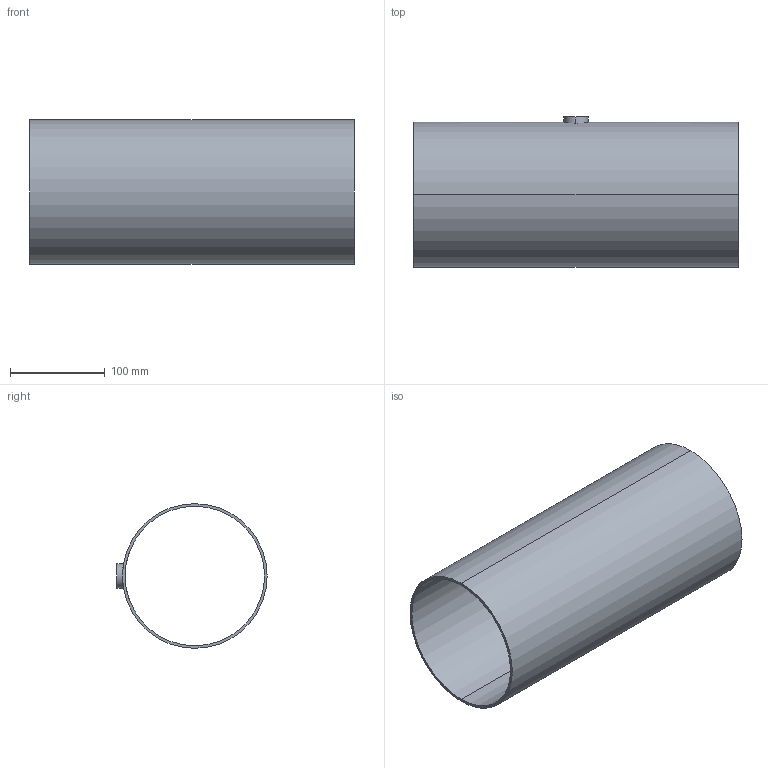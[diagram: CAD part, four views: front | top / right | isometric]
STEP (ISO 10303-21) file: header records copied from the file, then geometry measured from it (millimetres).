
FILE_DESCRIPTION (( 'STEP AP214' ), '1' );
FILE_NAME ('TEG7RS6L6.0x1.0-...STEP', '2016-05-24T11:18:05', ( 'eran' ), ( '' ), 'SwSTEP 2.0', 'SolidWorks 2016', '' );
FILE_SCHEMA (( 'AUTOMOTIVE_DESIGN' ));
Length unit declared in the file: millimetre
Products named in the file (1): TEG7RS6L6.0x1.0-..
Bounding box: 342 x 158.3 x 152.4 mm (x, y, z)
Volume: 445040.6 mm3; surface area: 324510.7 mm2
Topology: 1 solids, 1 shells, 11 faces, 24 edges, 16 vertices
Faces by surface type: cylinder 8, plane 3
Entity records: 536 total; most frequent: CARTESIAN_POINT 244, DIRECTION 56, ORIENTED_EDGE 48, EDGE_CURVE 24, AXIS2_PLACEMENT_3D 24, EDGE_LOOP 16, VERTEX_POINT 16, CIRCLE 12
